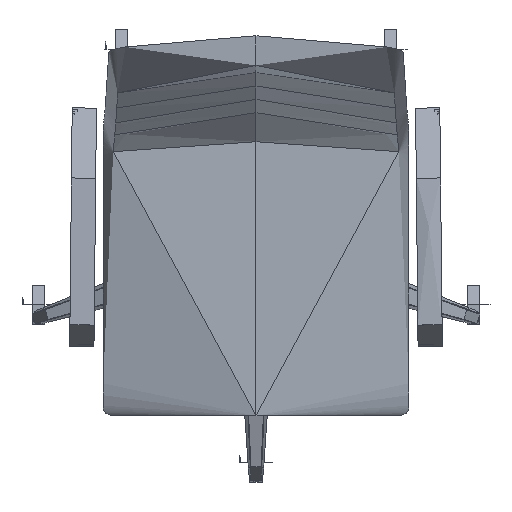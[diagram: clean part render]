
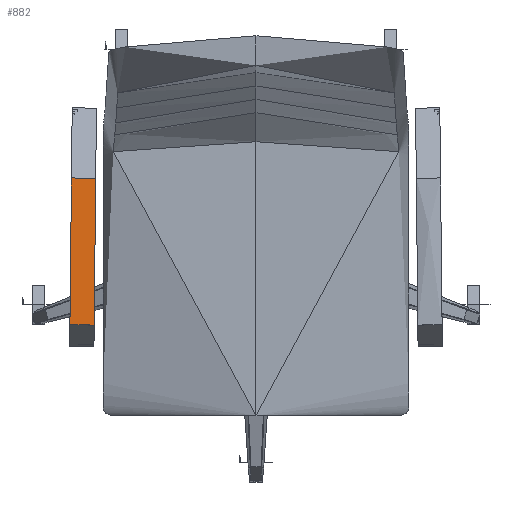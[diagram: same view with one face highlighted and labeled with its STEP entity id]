
A CAD part, top view. The second image highlights one B-rep face of the part: STEP entity #882.
In plain terms, the highlighted free-form (B-spline) face has degree [3, 3] with [5, 4] control points.
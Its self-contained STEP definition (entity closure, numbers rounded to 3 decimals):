
#96=(
BOUNDED_CURVE()
B_SPLINE_CURVE(3,(#11114,#11115,#11116,#11117),.UNSPECIFIED.,.F.,.F.)
B_SPLINE_CURVE_WITH_KNOTS((4,4),(0.,217.847),.UNSPECIFIED.)
CURVE()
GEOMETRIC_REPRESENTATION_ITEM()
RATIONAL_B_SPLINE_CURVE((1.,1.,1.,1.))
REPRESENTATION_ITEM('')
);
#97=(
BOUNDED_CURVE()
B_SPLINE_CURVE(3,(#11118,#11119,#11120,#11121,#11122),.UNSPECIFIED.,.F.,
 .F.)
B_SPLINE_CURVE_WITH_KNOTS((4,1,4),(-36.993,-18.496,
0.),.UNSPECIFIED.)
CURVE()
GEOMETRIC_REPRESENTATION_ITEM()
RATIONAL_B_SPLINE_CURVE((1.,1.,1.,1.,1.))
REPRESENTATION_ITEM('')
);
#98=(
BOUNDED_CURVE()
B_SPLINE_CURVE(3,(#11123,#11124,#11125,#11126),.UNSPECIFIED.,.F.,.F.)
B_SPLINE_CURVE_WITH_KNOTS((4,4),(-217.847,0.),.UNSPECIFIED.)
CURVE()
GEOMETRIC_REPRESENTATION_ITEM()
RATIONAL_B_SPLINE_CURVE((1.,1.,1.,1.))
REPRESENTATION_ITEM('')
);
#99=(
BOUNDED_CURVE()
B_SPLINE_CURVE(3,(#11127,#11128,#11129,#11130,#11131),.UNSPECIFIED.,.F.,
 .F.)
B_SPLINE_CURVE_WITH_KNOTS((4,1,4),(0.,18.496,36.993),
 .UNSPECIFIED.)
CURVE()
GEOMETRIC_REPRESENTATION_ITEM()
RATIONAL_B_SPLINE_CURVE((1.,1.,1.,1.,1.))
REPRESENTATION_ITEM('')
);
#550=(
BOUNDED_SURFACE()
B_SPLINE_SURFACE(3,3,((#10599,#10600,#10601,#10602),(#10603,#10604,#10605,
#10606),(#10607,#10608,#10609,#10610),(#10611,#10612,#10613,#10614),(#10615,
#10616,#10617,#10618)),.UNSPECIFIED.,.F.,.F.,.F.)
B_SPLINE_SURFACE_WITH_KNOTS((4,1,4),(4,4),(-36.993,-18.496,
0.),(0.,217.847),.UNSPECIFIED.)
GEOMETRIC_REPRESENTATION_ITEM()
RATIONAL_B_SPLINE_SURFACE(((1.,1.,1.,1.),(1.,1.,1.,1.),(1.,1.,1.,1.),(1.,
1.,1.,1.),(1.,1.,1.,1.)))
REPRESENTATION_ITEM('')
SURFACE()
);
#882=ADVANCED_FACE('',(#1258),#550,.T.);
#1258=FACE_OUTER_BOUND('',#1638,.T.);
#1638=EDGE_LOOP('',(#2125,#2126,#2127,#2128));
#2125=ORIENTED_EDGE('',*,*,#3677,.F.);
#2126=ORIENTED_EDGE('',*,*,#3676,.F.);
#2127=ORIENTED_EDGE('',*,*,#3675,.F.);
#2128=ORIENTED_EDGE('',*,*,#3674,.F.);
#3674=EDGE_CURVE('',#4538,#4539,#96,.T.);
#3675=EDGE_CURVE('',#4539,#4540,#97,.T.);
#3676=EDGE_CURVE('',#4540,#4541,#98,.T.);
#3677=EDGE_CURVE('',#4541,#4538,#99,.T.);
#4538=VERTEX_POINT('',#10973);
#4539=VERTEX_POINT('',#10974);
#4540=VERTEX_POINT('',#10975);
#4541=VERTEX_POINT('',#10976);
#10599=CARTESIAN_POINT('',(-237.986,100.487,641.621));
#10600=CARTESIAN_POINT('',(-238.746,27.912,643.941));
#10601=CARTESIAN_POINT('',(-239.509,-44.946,646.27));
#10602=CARTESIAN_POINT('',(-240.269,-117.521,648.591));
#10603=CARTESIAN_POINT('',(-244.421,100.551,644.077));
#10604=CARTESIAN_POINT('',(-245.181,27.977,646.397));
#10605=CARTESIAN_POINT('',(-246.042,-44.711,648.665));
#10606=CARTESIAN_POINT('',(-246.802,-117.286,650.986));
#10607=CARTESIAN_POINT('',(-255.46,100.663,646.937));
#10608=CARTESIAN_POINT('',(-256.22,28.089,649.257));
#10609=CARTESIAN_POINT('',(-256.817,-44.396,651.561));
#10610=CARTESIAN_POINT('',(-257.577,-116.97,653.881));
#10611=CARTESIAN_POINT('',(-268.599,100.804,644.54));
#10612=CARTESIAN_POINT('',(-269.359,28.229,646.861));
#10613=CARTESIAN_POINT('',(-270.346,-44.413,649.268));
#10614=CARTESIAN_POINT('',(-271.106,-116.988,651.588));
#10615=CARTESIAN_POINT('',(-273.984,100.864,641.621));
#10616=CARTESIAN_POINT('',(-274.744,28.289,643.941));
#10617=CARTESIAN_POINT('',(-275.507,-44.569,646.27));
#10618=CARTESIAN_POINT('',(-276.267,-117.144,648.591));
#10973=CARTESIAN_POINT('',(-237.986,100.487,641.621));
#10974=CARTESIAN_POINT('',(-240.269,-117.521,648.591));
#10975=CARTESIAN_POINT('',(-276.267,-117.144,648.591));
#10976=CARTESIAN_POINT('',(-273.984,100.864,641.621));
#11114=CARTESIAN_POINT('',(-237.986,100.487,641.621));
#11115=CARTESIAN_POINT('',(-238.746,27.912,643.941));
#11116=CARTESIAN_POINT('',(-239.509,-44.946,646.27));
#11117=CARTESIAN_POINT('',(-240.269,-117.521,648.591));
#11118=CARTESIAN_POINT('',(-240.269,-117.521,648.591));
#11119=CARTESIAN_POINT('',(-246.802,-117.286,650.986));
#11120=CARTESIAN_POINT('',(-257.577,-116.97,653.881));
#11121=CARTESIAN_POINT('',(-271.106,-116.988,651.588));
#11122=CARTESIAN_POINT('',(-276.267,-117.144,648.591));
#11123=CARTESIAN_POINT('',(-276.267,-117.144,648.591));
#11124=CARTESIAN_POINT('',(-275.507,-44.569,646.27));
#11125=CARTESIAN_POINT('',(-274.744,28.289,643.941));
#11126=CARTESIAN_POINT('',(-273.984,100.864,641.621));
#11127=CARTESIAN_POINT('',(-273.984,100.864,641.621));
#11128=CARTESIAN_POINT('',(-268.599,100.804,644.54));
#11129=CARTESIAN_POINT('',(-255.46,100.663,646.937));
#11130=CARTESIAN_POINT('',(-244.421,100.551,644.077));
#11131=CARTESIAN_POINT('',(-237.986,100.487,641.621));
